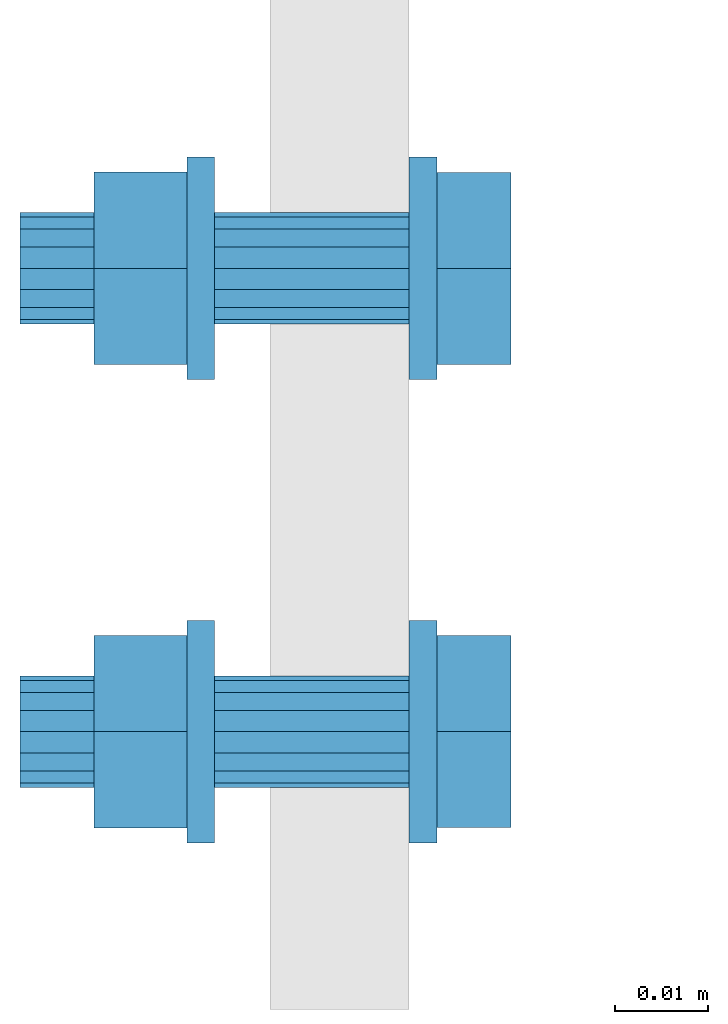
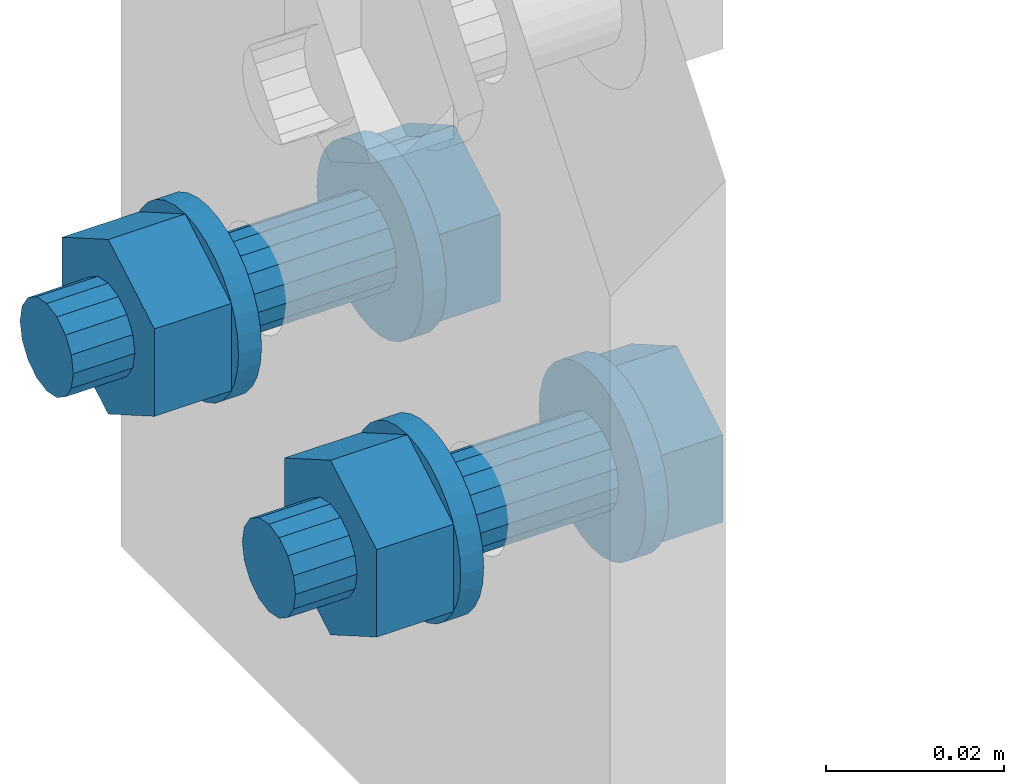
# One storey, part 3 of 13: 2 mechanical fasteners.
"""IFC4X3_ADD2 building model written with IfcOpenShell, lengths in millimetres."""

from ifc_helpers import new_model, entity, si_unit, converted_unit, derived_unit, direction, origin, place, context, project, spatial, faceted_brep, element, save


model = new_model("IFC4X3_ADD2")

# Units and contexts
model_context = context("Model", 3, precision=0.01, world=origin(), true_north=direction((6.123233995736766e-17, 1.0)))
plan_context = context("Plan", 3, precision=0.01, world=origin(), true_north=direction((6.123233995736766e-17, 1.0)))
ifc_project = project(units=[si_unit("LENGTHUNIT", "METRE", prefix="MILLI"), converted_unit("PLANEANGLEUNIT", "DEGREE", entity("IfcPlaneAngleMeasure", 0.017453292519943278), si_unit("PLANEANGLEUNIT", "RADIAN"), dimensions=[0, 0, 0, 0, 0, 0, 0]), si_unit("AREAUNIT", "SQUARE_METRE"), si_unit("VOLUMEUNIT", "CUBIC_METRE"), derived_unit("THERMALTRANSMITTANCEUNIT", [(si_unit("MASSUNIT", "GRAM", prefix="KILO"), 1), (si_unit("THERMODYNAMICTEMPERATUREUNIT", "KELVIN"), -1), (si_unit("TIMEUNIT", "SECOND"), -3)]), derived_unit("USERDEFINED", [(si_unit("MASSUNIT", "GRAM", prefix="KILO"), 1), (si_unit("THERMODYNAMICTEMPERATUREUNIT", "KELVIN"), -1), (si_unit("TIMEUNIT", "SECOND"), -2)]), derived_unit("THERMALRESISTANCEUNIT", [(si_unit("MASSUNIT", "GRAM", prefix="KILO"), -1), (si_unit("TIMEUNIT", "SECOND"), 3), (si_unit("THERMODYNAMICTEMPERATUREUNIT", "KELVIN"), 1)]), si_unit("MASSUNIT", "GRAM", prefix="KILO"), derived_unit("MOMENTOFINERTIAUNIT", [(si_unit("LENGTHUNIT", "METRE"), 4)]), derived_unit("LINEARFORCEUNIT", [(si_unit("MASSUNIT", "GRAM", prefix="KILO"), 1), (si_unit("TIMEUNIT", "SECOND"), -2)]), derived_unit("WARPINGCONSTANTUNIT", [(si_unit("LENGTHUNIT", "METRE"), 6)]), si_unit("PRESSUREUNIT", "PASCAL"), derived_unit("MASSDENSITYUNIT", [(si_unit("MASSUNIT", "GRAM", prefix="KILO"), 1), (si_unit("LENGTHUNIT", "METRE"), -3)]), derived_unit("MODULUSOFELASTICITYUNIT", [(si_unit("MASSUNIT", "GRAM", prefix="KILO"), 1), (si_unit("TIMEUNIT", "SECOND"), -2), (si_unit("LENGTHUNIT", "METRE"), -1)]), derived_unit("THERMALEXPANSIONCOEFFICIENTUNIT", [(si_unit("THERMODYNAMICTEMPERATUREUNIT", "KELVIN"), -1)]), derived_unit("VAPORPERMEABILITYUNIT", [(si_unit("LENGTHUNIT", "METRE"), -1), (si_unit("TIMEUNIT", "SECOND"), 1)]), derived_unit("USERDEFINED", [(si_unit("MASSUNIT", "GRAM", prefix="KILO"), 1), (si_unit("TIMEUNIT", "SECOND"), -3), (si_unit("LENGTHUNIT", "METRE"), 3), (si_unit("ELECTRICCURRENTUNIT", "AMPERE"), -2)]), derived_unit("SPECIFICHEATCAPACITYUNIT", [(si_unit("THERMODYNAMICTEMPERATUREUNIT", "KELVIN"), -1), (si_unit("TIMEUNIT", "SECOND"), -2), (si_unit("LENGTHUNIT", "METRE"), 2)]), derived_unit("THERMALCONDUCTANCEUNIT", [(si_unit("MASSUNIT", "GRAM", prefix="KILO"), 1), (si_unit("THERMODYNAMICTEMPERATUREUNIT", "KELVIN"), -1), (si_unit("TIMEUNIT", "SECOND"), -3), (si_unit("LENGTHUNIT", "METRE"), 1)])], contexts=[model_context, plan_context])

# Site, building, storey
site_placement = place(None, origin())
site = spatial("IfcSite", under=ifc_project, at=site_placement, Name="Default", CompositionType="ELEMENT")
building_placement = place(site_placement, origin())
building = spatial("IfcBuilding", under=site, at=building_placement, Name="Complex structure", CompositionType="ELEMENT")
storey_placement = place(building_placement, origin())
storey = spatial("IfcBuildingStorey", under=building, at=storey_placement, Name="Level 00", CompositionType="ELEMENT", Elevation=0.0)

# Mechanical fasteners
mechanical_fastener_1_placement = place(storey_placement, origin())
element("IfcMechanicalFastener", 1, at=mechanical_fastener_1_placement, inside=storey, ObjectType="Bolt#5", NominalDiameter=12.0, NominalLength=45.0, context=model_context, shape_type="Brep", body=[
    faceted_brep([(-13124.221550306, -1269.866703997, 2900.0), (-13127.221550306, -1269.866703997, 2900.0), (-13127.221550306, -1269.636127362, 2897.658916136), (-13124.221550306, -1269.636127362, 2897.658916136), (-13127.221550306, -1268.953258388, 2895.407798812), (-13124.221550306, -1268.953258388, 2895.407798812), (-13127.221550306, -1267.844339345, 2893.333157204), (-13124.221550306, -1267.844339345, 2893.333157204), (-13127.221550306, -1266.351985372, 2891.514718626), (-13124.221550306, -1266.351985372, 2891.514718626), (-13127.221550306, -1264.533546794, 2890.022364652), (-13124.221550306, -1264.533546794, 2890.022364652), (-13127.221550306, -1262.458905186, 2888.91344561), (-13124.221550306, -1262.458905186, 2888.91344561), (-13127.221550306, -1260.207787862, 2888.230576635), (-13124.221550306, -1260.207787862, 2888.230576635), (-13127.221550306, -1257.866703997, 2888.0), (-13124.221550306, -1257.866703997, 2888.0), (-13127.221550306, -1255.525620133, 2888.230576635), (-13124.221550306, -1255.525620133, 2888.230576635), (-13127.221550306, -1253.274502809, 2888.91344561), (-13124.221550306, -1253.274502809, 2888.91344561), (-13127.221550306, -1251.199861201, 2890.022364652), (-13124.221550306, -1251.199861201, 2890.022364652), (-13127.221550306, -1249.381422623, 2891.514718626), (-13124.221550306, -1249.381422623, 2891.514718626), (-13127.221550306, -1247.88906865, 2893.333157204), (-13124.221550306, -1247.88906865, 2893.333157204), (-13127.221550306, -1246.780149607, 2895.407798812), (-13124.221550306, -1246.780149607, 2895.407798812), (-13127.221550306, -1246.097280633, 2897.658916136), (-13124.221550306, -1246.097280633, 2897.658916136), (-13127.221550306, -1245.866703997, 2900.0), (-13124.221550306, -1245.866703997, 2900.0), (-13127.221550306, -1246.097280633, 2902.341083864), (-13124.221550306, -1246.097280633, 2902.341083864), (-13127.221550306, -1246.780149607, 2904.592201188), (-13124.221550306, -1246.780149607, 2904.592201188), (-13127.221550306, -1247.88906865, 2906.666842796), (-13124.221550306, -1247.88906865, 2906.666842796), (-13127.221550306, -1249.381422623, 2908.485281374), (-13124.221550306, -1249.381422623, 2908.485281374), (-13127.221550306, -1251.199861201, 2909.977635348), (-13124.221550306, -1251.199861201, 2909.977635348), (-13127.221550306, -1253.274502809, 2911.08655439), (-13124.221550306, -1253.274502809, 2911.08655439), (-13127.221550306, -1255.525620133, 2911.769423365), (-13124.221550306, -1255.525620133, 2911.769423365), (-13127.221550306, -1257.866703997, 2912.0), (-13124.221550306, -1257.866703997, 2912.0), (-13127.221550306, -1260.207787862, 2911.769423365), (-13124.221550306, -1260.207787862, 2911.769423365), (-13127.221550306, -1262.458905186, 2911.08655439), (-13124.221550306, -1262.458905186, 2911.08655439), (-13127.221550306, -1264.533546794, 2909.977635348), (-13124.221550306, -1264.533546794, 2909.977635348), (-13127.221550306, -1266.351985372, 2908.485281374), (-13124.221550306, -1266.351985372, 2908.485281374), (-13127.221550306, -1267.844339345, 2906.666842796), (-13124.221550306, -1267.844339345, 2906.666842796), (-13127.221550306, -1268.953258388, 2904.592201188), (-13124.221550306, -1268.953258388, 2904.592201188), (-13127.221550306, -1269.636127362, 2902.341083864), (-13124.221550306, -1269.636127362, 2902.341083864)], [[[0, 1, 2, 3]], [[3, 2, 4, 5]], [[5, 4, 6, 7]], [[7, 6, 8, 9]], [[9, 8, 10, 11]], [[11, 10, 12, 13]], [[13, 12, 14, 15]], [[15, 14, 16, 17]], [[17, 16, 18, 19]], [[19, 18, 20, 21]], [[21, 20, 22, 23]], [[23, 22, 24, 25]], [[25, 24, 26, 27]], [[27, 26, 28, 29]], [[29, 28, 30, 31]], [[31, 30, 32, 33]], [[33, 32, 34, 35]], [[35, 34, 36, 37]], [[37, 36, 38, 39]], [[39, 38, 40, 41]], [[41, 40, 42, 43]], [[43, 42, 44, 45]], [[45, 44, 46, 47]], [[47, 46, 48, 49]], [[49, 48, 50, 51]], [[51, 50, 52, 53]], [[53, 52, 54, 55]], [[55, 54, 56, 57]], [[57, 56, 58, 59]], [[59, 58, 60, 61]], [[61, 60, 62, 63]], [[63, 62, 1, 0]], [[0, 3, 5, 7, 9, 11, 13, 15, 17, 19, 21, 23, 25, 27, 29, 31, 33, 35, 37, 39, 41, 43, 45, 47, 49, 51, 53, 55, 57, 59, 61, 63]], [[1, 62, 60, 58, 56, 54, 52, 50, 48, 46, 44, 42, 40, 38, 36, 34, 32, 30, 28, 26, 24, 22, 20, 18, 16, 14, 12, 10, 8, 6, 4, 2]]]),
    faceted_brep([(-13124.221550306, -1247.513370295, 2894.0225), (-13116.221550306, -1247.513370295, 2894.0225), (-13116.221550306, -1257.866703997, 2888.045), (-13124.221550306, -1257.866703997, 2888.045), (-13116.221550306, -1268.2200377, 2894.0225), (-13124.221550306, -1268.2200377, 2894.0225), (-13116.221550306, -1268.2200377, 2905.9775), (-13124.221550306, -1268.2200377, 2905.9775), (-13116.221550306, -1257.866703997, 2911.955), (-13124.221550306, -1257.866703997, 2911.955), (-13116.221550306, -1247.513370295, 2905.9775), (-13124.221550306, -1247.513370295, 2905.9775)], [[[0, 1, 2, 3]], [[3, 2, 4, 5]], [[5, 4, 6, 7]], [[7, 6, 8, 9]], [[9, 8, 10, 11]], [[11, 10, 1, 0]], [[4, 2, 1, 10, 8, 6]], [[0, 3, 5, 7, 9, 11]]]),
    faceted_brep([(-13127.221550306, -1263.866703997, 2900.0), (-13148.221550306, -1263.866703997, 2900.0), (-13148.221550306, -1263.409981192, 2897.703899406), (-13127.221550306, -1263.409981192, 2897.703899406), (-13148.221550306, -1262.109344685, 2895.757359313), (-13127.221550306, -1262.109344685, 2895.757359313), (-13148.221550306, -1260.162804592, 2894.456722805), (-13127.221550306, -1260.162804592, 2894.456722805), (-13148.221550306, -1257.866703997, 2894.0), (-13127.221550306, -1257.866703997, 2894.0), (-13148.221550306, -1255.570603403, 2894.456722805), (-13127.221550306, -1255.570603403, 2894.456722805), (-13148.221550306, -1253.62406331, 2895.757359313), (-13127.221550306, -1253.62406331, 2895.757359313), (-13148.221550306, -1252.323426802, 2897.703899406), (-13127.221550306, -1252.323426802, 2897.703899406), (-13148.221550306, -1251.866703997, 2900.0), (-13127.221550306, -1251.866703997, 2900.0), (-13148.221550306, -1252.323426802, 2902.296100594), (-13127.221550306, -1252.323426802, 2902.296100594), (-13148.221550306, -1253.62406331, 2904.242640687), (-13127.221550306, -1253.62406331, 2904.242640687), (-13148.221550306, -1255.570603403, 2905.543277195), (-13127.221550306, -1255.570603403, 2905.543277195), (-13148.221550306, -1257.866703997, 2906.0), (-13127.221550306, -1257.866703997, 2906.0), (-13148.221550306, -1260.162804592, 2905.543277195), (-13127.221550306, -1260.162804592, 2905.543277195), (-13148.221550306, -1262.109344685, 2904.242640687), (-13127.221550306, -1262.109344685, 2904.242640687), (-13148.221550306, -1263.409981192, 2902.296100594), (-13127.221550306, -1263.409981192, 2902.296100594)], [[[0, 1, 2, 3]], [[3, 2, 4, 5]], [[5, 4, 6, 7]], [[7, 6, 8, 9]], [[9, 8, 10, 11]], [[11, 10, 12, 13]], [[13, 12, 14, 15]], [[15, 14, 16, 17]], [[17, 16, 18, 19]], [[19, 18, 20, 21]], [[21, 20, 22, 23]], [[23, 22, 24, 25]], [[25, 24, 26, 27]], [[27, 26, 28, 29]], [[29, 28, 30, 31]], [[31, 30, 1, 0]], [[0, 3, 5, 7, 9, 11, 13, 15, 17, 19, 21, 23, 25, 27, 29, 31]], [[1, 30, 28, 26, 24, 22, 20, 18, 16, 14, 12, 10, 8, 6, 4, 2]]]),
    faceted_brep([(-13148.221550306, -1269.866703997, 2900.0), (-13151.221550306, -1269.866703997, 2900.0), (-13151.221550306, -1269.636127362, 2897.658916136), (-13148.221550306, -1269.636127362, 2897.658916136), (-13151.221550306, -1268.953258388, 2895.407798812), (-13148.221550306, -1268.953258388, 2895.407798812), (-13151.221550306, -1267.844339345, 2893.333157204), (-13148.221550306, -1267.844339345, 2893.333157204), (-13151.221550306, -1266.351985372, 2891.514718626), (-13148.221550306, -1266.351985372, 2891.514718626), (-13151.221550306, -1264.533546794, 2890.022364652), (-13148.221550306, -1264.533546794, 2890.022364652), (-13151.221550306, -1262.458905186, 2888.91344561), (-13148.221550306, -1262.458905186, 2888.91344561), (-13151.221550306, -1260.207787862, 2888.230576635), (-13148.221550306, -1260.207787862, 2888.230576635), (-13151.221550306, -1257.866703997, 2888.0), (-13148.221550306, -1257.866703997, 2888.0), (-13151.221550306, -1255.525620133, 2888.230576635), (-13148.221550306, -1255.525620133, 2888.230576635), (-13151.221550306, -1253.274502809, 2888.91344561), (-13148.221550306, -1253.274502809, 2888.91344561), (-13151.221550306, -1251.199861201, 2890.022364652), (-13148.221550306, -1251.199861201, 2890.022364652), (-13151.221550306, -1249.381422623, 2891.514718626), (-13148.221550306, -1249.381422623, 2891.514718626), (-13151.221550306, -1247.88906865, 2893.333157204), (-13148.221550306, -1247.88906865, 2893.333157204), (-13151.221550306, -1246.780149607, 2895.407798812), (-13148.221550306, -1246.780149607, 2895.407798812), (-13151.221550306, -1246.097280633, 2897.658916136), (-13148.221550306, -1246.097280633, 2897.658916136), (-13151.221550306, -1245.866703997, 2900.0), (-13148.221550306, -1245.866703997, 2900.0), (-13151.221550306, -1246.097280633, 2902.341083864), (-13148.221550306, -1246.097280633, 2902.341083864), (-13151.221550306, -1246.780149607, 2904.592201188), (-13148.221550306, -1246.780149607, 2904.592201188), (-13151.221550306, -1247.88906865, 2906.666842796), (-13148.221550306, -1247.88906865, 2906.666842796), (-13151.221550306, -1249.381422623, 2908.485281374), (-13148.221550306, -1249.381422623, 2908.485281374), (-13151.221550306, -1251.199861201, 2909.977635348), (-13148.221550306, -1251.199861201, 2909.977635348), (-13151.221550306, -1253.274502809, 2911.08655439), (-13148.221550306, -1253.274502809, 2911.08655439), (-13151.221550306, -1255.525620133, 2911.769423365), (-13148.221550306, -1255.525620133, 2911.769423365), (-13151.221550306, -1257.866703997, 2912.0), (-13148.221550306, -1257.866703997, 2912.0), (-13151.221550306, -1260.207787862, 2911.769423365), (-13148.221550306, -1260.207787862, 2911.769423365), (-13151.221550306, -1262.458905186, 2911.08655439), (-13148.221550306, -1262.458905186, 2911.08655439), (-13151.221550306, -1264.533546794, 2909.977635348), (-13148.221550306, -1264.533546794, 2909.977635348), (-13151.221550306, -1266.351985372, 2908.485281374), (-13148.221550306, -1266.351985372, 2908.485281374), (-13151.221550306, -1267.844339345, 2906.666842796), (-13148.221550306, -1267.844339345, 2906.666842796), (-13151.221550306, -1268.953258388, 2904.592201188), (-13148.221550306, -1268.953258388, 2904.592201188), (-13151.221550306, -1269.636127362, 2902.341083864), (-13148.221550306, -1269.636127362, 2902.341083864)], [[[0, 1, 2, 3]], [[3, 2, 4, 5]], [[5, 4, 6, 7]], [[7, 6, 8, 9]], [[9, 8, 10, 11]], [[11, 10, 12, 13]], [[13, 12, 14, 15]], [[15, 14, 16, 17]], [[17, 16, 18, 19]], [[19, 18, 20, 21]], [[21, 20, 22, 23]], [[23, 22, 24, 25]], [[25, 24, 26, 27]], [[27, 26, 28, 29]], [[29, 28, 30, 31]], [[31, 30, 32, 33]], [[33, 32, 34, 35]], [[35, 34, 36, 37]], [[37, 36, 38, 39]], [[39, 38, 40, 41]], [[41, 40, 42, 43]], [[43, 42, 44, 45]], [[45, 44, 46, 47]], [[47, 46, 48, 49]], [[49, 48, 50, 51]], [[51, 50, 52, 53]], [[53, 52, 54, 55]], [[55, 54, 56, 57]], [[57, 56, 58, 59]], [[59, 58, 60, 61]], [[61, 60, 62, 63]], [[63, 62, 1, 0]], [[0, 3, 5, 7, 9, 11, 13, 15, 17, 19, 21, 23, 25, 27, 29, 31, 33, 35, 37, 39, 41, 43, 45, 47, 49, 51, 53, 55, 57, 59, 61, 63]], [[1, 62, 60, 58, 56, 54, 52, 50, 48, 46, 44, 42, 40, 38, 36, 34, 32, 30, 28, 26, 24, 22, 20, 18, 16, 14, 12, 10, 8, 6, 4, 2]]]),
    faceted_brep([(-13161.221550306, -1247.474399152, 2894.0), (-13151.221550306, -1247.474399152, 2894.0), (-13151.221550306, -1257.866703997, 2888.0), (-13161.221550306, -1257.866703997, 2888.0), (-13151.221550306, -1268.259008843, 2894.0), (-13161.221550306, -1268.259008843, 2894.0), (-13151.221550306, -1268.259008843, 2906.0), (-13161.221550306, -1268.259008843, 2906.0), (-13151.221550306, -1257.866703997, 2912.0), (-13161.221550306, -1257.866703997, 2912.0), (-13151.221550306, -1247.474399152, 2906.0), (-13161.221550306, -1247.474399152, 2906.0)], [[[0, 1, 2, 3]], [[3, 2, 4, 5]], [[5, 4, 6, 7]], [[7, 6, 8, 9]], [[9, 8, 10, 11]], [[11, 10, 1, 0]], [[4, 2, 1, 10, 8, 6]], [[0, 3, 5, 7, 9, 11]]]),
    faceted_brep([(-13161.221550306, -1263.866703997, 2900.0), (-13169.221550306, -1263.866703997, 2900.0), (-13169.221550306, -1263.409981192, 2897.703899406), (-13161.221550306, -1263.409981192, 2897.703899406), (-13169.221550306, -1262.109344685, 2895.757359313), (-13161.221550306, -1262.109344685, 2895.757359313), (-13169.221550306, -1260.162804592, 2894.456722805), (-13161.221550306, -1260.162804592, 2894.456722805), (-13169.221550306, -1257.866703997, 2894.0), (-13161.221550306, -1257.866703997, 2894.0), (-13169.221550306, -1255.570603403, 2894.456722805), (-13161.221550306, -1255.570603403, 2894.456722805), (-13169.221550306, -1253.62406331, 2895.757359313), (-13161.221550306, -1253.62406331, 2895.757359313), (-13169.221550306, -1252.323426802, 2897.703899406), (-13161.221550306, -1252.323426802, 2897.703899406), (-13169.221550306, -1251.866703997, 2900.0), (-13161.221550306, -1251.866703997, 2900.0), (-13169.221550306, -1252.323426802, 2902.296100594), (-13161.221550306, -1252.323426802, 2902.296100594), (-13169.221550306, -1253.62406331, 2904.242640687), (-13161.221550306, -1253.62406331, 2904.242640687), (-13169.221550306, -1255.570603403, 2905.543277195), (-13161.221550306, -1255.570603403, 2905.543277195), (-13169.221550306, -1257.866703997, 2906.0), (-13161.221550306, -1257.866703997, 2906.0), (-13169.221550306, -1260.162804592, 2905.543277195), (-13161.221550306, -1260.162804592, 2905.543277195), (-13169.221550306, -1262.109344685, 2904.242640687), (-13161.221550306, -1262.109344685, 2904.242640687), (-13169.221550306, -1263.409981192, 2902.296100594), (-13161.221550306, -1263.409981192, 2902.296100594)], [[[0, 1, 2, 3]], [[3, 2, 4, 5]], [[5, 4, 6, 7]], [[7, 6, 8, 9]], [[9, 8, 10, 11]], [[11, 10, 12, 13]], [[13, 12, 14, 15]], [[15, 14, 16, 17]], [[17, 16, 18, 19]], [[19, 18, 20, 21]], [[21, 20, 22, 23]], [[23, 22, 24, 25]], [[25, 24, 26, 27]], [[27, 26, 28, 29]], [[29, 28, 30, 31]], [[31, 30, 1, 0]], [[0, 3, 5, 7, 9, 11, 13, 15, 17, 19, 21, 23, 25, 27, 29, 31]], [[1, 30, 28, 26, 24, 22, 20, 18, 16, 14, 12, 10, 8, 6, 4, 2]]]),
])
mechanical_fastener_2_placement = place(storey_placement, origin())
element("IfcMechanicalFastener", 2, at=mechanical_fastener_2_placement, inside=storey, ObjectType="Bolt#6", NominalDiameter=12.0, NominalLength=45.0, context=model_context, shape_type="Brep", body=[
    faceted_brep([(-13124.221550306, -1295.866703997, 2900.0), (-13127.221550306, -1295.866703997, 2900.0), (-13127.221550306, -1296.097280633, 2902.341083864), (-13124.221550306, -1296.097280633, 2902.341083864), (-13127.221550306, -1296.780149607, 2904.592201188), (-13124.221550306, -1296.780149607, 2904.592201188), (-13127.221550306, -1297.88906865, 2906.666842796), (-13124.221550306, -1297.88906865, 2906.666842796), (-13127.221550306, -1299.381422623, 2908.485281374), (-13124.221550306, -1299.381422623, 2908.485281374), (-13127.221550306, -1301.199861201, 2909.977635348), (-13124.221550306, -1301.199861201, 2909.977635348), (-13127.221550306, -1303.274502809, 2911.08655439), (-13124.221550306, -1303.274502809, 2911.08655439), (-13127.221550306, -1305.525620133, 2911.769423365), (-13124.221550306, -1305.525620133, 2911.769423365), (-13127.221550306, -1307.866703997, 2912.0), (-13124.221550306, -1307.866703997, 2912.0), (-13127.221550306, -1310.207787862, 2911.769423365), (-13124.221550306, -1310.207787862, 2911.769423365), (-13127.221550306, -1312.458905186, 2911.08655439), (-13124.221550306, -1312.458905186, 2911.08655439), (-13127.221550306, -1314.533546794, 2909.977635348), (-13124.221550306, -1314.533546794, 2909.977635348), (-13127.221550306, -1316.351985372, 2908.485281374), (-13124.221550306, -1316.351985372, 2908.485281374), (-13127.221550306, -1317.844339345, 2906.666842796), (-13124.221550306, -1317.844339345, 2906.666842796), (-13127.221550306, -1318.953258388, 2904.592201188), (-13124.221550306, -1318.953258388, 2904.592201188), (-13127.221550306, -1319.636127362, 2902.341083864), (-13124.221550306, -1319.636127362, 2902.341083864), (-13127.221550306, -1319.866703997, 2900.0), (-13124.221550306, -1319.866703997, 2900.0), (-13127.221550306, -1319.636127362, 2897.658916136), (-13124.221550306, -1319.636127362, 2897.658916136), (-13127.221550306, -1318.953258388, 2895.407798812), (-13124.221550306, -1318.953258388, 2895.407798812), (-13127.221550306, -1317.844339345, 2893.333157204), (-13124.221550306, -1317.844339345, 2893.333157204), (-13127.221550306, -1316.351985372, 2891.514718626), (-13124.221550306, -1316.351985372, 2891.514718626), (-13127.221550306, -1314.533546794, 2890.022364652), (-13124.221550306, -1314.533546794, 2890.022364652), (-13127.221550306, -1312.458905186, 2888.91344561), (-13124.221550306, -1312.458905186, 2888.91344561), (-13127.221550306, -1310.207787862, 2888.230576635), (-13124.221550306, -1310.207787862, 2888.230576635), (-13127.221550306, -1307.866703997, 2888.0), (-13124.221550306, -1307.866703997, 2888.0), (-13127.221550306, -1305.525620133, 2888.230576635), (-13124.221550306, -1305.525620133, 2888.230576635), (-13127.221550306, -1303.274502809, 2888.91344561), (-13124.221550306, -1303.274502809, 2888.91344561), (-13127.221550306, -1301.199861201, 2890.022364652), (-13124.221550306, -1301.199861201, 2890.022364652), (-13127.221550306, -1299.381422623, 2891.514718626), (-13124.221550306, -1299.381422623, 2891.514718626), (-13127.221550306, -1297.88906865, 2893.333157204), (-13124.221550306, -1297.88906865, 2893.333157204), (-13127.221550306, -1296.780149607, 2895.407798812), (-13124.221550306, -1296.780149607, 2895.407798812), (-13127.221550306, -1296.097280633, 2897.658916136), (-13124.221550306, -1296.097280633, 2897.658916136)], [[[0, 1, 2, 3]], [[3, 2, 4, 5]], [[5, 4, 6, 7]], [[7, 6, 8, 9]], [[9, 8, 10, 11]], [[11, 10, 12, 13]], [[13, 12, 14, 15]], [[15, 14, 16, 17]], [[17, 16, 18, 19]], [[19, 18, 20, 21]], [[21, 20, 22, 23]], [[23, 22, 24, 25]], [[25, 24, 26, 27]], [[27, 26, 28, 29]], [[29, 28, 30, 31]], [[31, 30, 32, 33]], [[33, 32, 34, 35]], [[35, 34, 36, 37]], [[37, 36, 38, 39]], [[39, 38, 40, 41]], [[41, 40, 42, 43]], [[43, 42, 44, 45]], [[45, 44, 46, 47]], [[47, 46, 48, 49]], [[49, 48, 50, 51]], [[51, 50, 52, 53]], [[53, 52, 54, 55]], [[55, 54, 56, 57]], [[57, 56, 58, 59]], [[59, 58, 60, 61]], [[61, 60, 62, 63]], [[63, 62, 1, 0]], [[0, 3, 5, 7, 9, 11, 13, 15, 17, 19, 21, 23, 25, 27, 29, 31, 33, 35, 37, 39, 41, 43, 45, 47, 49, 51, 53, 55, 57, 59, 61, 63]], [[1, 62, 60, 58, 56, 54, 52, 50, 48, 46, 44, 42, 40, 38, 36, 34, 32, 30, 28, 26, 24, 22, 20, 18, 16, 14, 12, 10, 8, 6, 4, 2]]]),
    faceted_brep([(-13124.221550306, -1318.2200377, 2905.9775), (-13116.221550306, -1318.2200377, 2905.9775), (-13116.221550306, -1307.866703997, 2911.955), (-13124.221550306, -1307.866703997, 2911.955), (-13116.221550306, -1297.513370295, 2905.9775), (-13124.221550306, -1297.513370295, 2905.9775), (-13116.221550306, -1297.513370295, 2894.0225), (-13124.221550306, -1297.513370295, 2894.0225), (-13116.221550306, -1307.866703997, 2888.045), (-13124.221550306, -1307.866703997, 2888.045), (-13116.221550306, -1318.2200377, 2894.0225), (-13124.221550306, -1318.2200377, 2894.0225)], [[[0, 1, 2, 3]], [[3, 2, 4, 5]], [[5, 4, 6, 7]], [[7, 6, 8, 9]], [[9, 8, 10, 11]], [[11, 10, 1, 0]], [[4, 2, 1, 10, 8, 6]], [[0, 3, 5, 7, 9, 11]]]),
    faceted_brep([(-13127.221550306, -1301.866703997, 2900.0), (-13148.221550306, -1301.866703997, 2900.0), (-13148.221550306, -1302.323426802, 2902.296100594), (-13127.221550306, -1302.323426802, 2902.296100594), (-13148.221550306, -1303.62406331, 2904.242640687), (-13127.221550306, -1303.62406331, 2904.242640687), (-13148.221550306, -1305.570603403, 2905.543277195), (-13127.221550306, -1305.570603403, 2905.543277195), (-13148.221550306, -1307.866703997, 2906.0), (-13127.221550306, -1307.866703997, 2906.0), (-13148.221550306, -1310.162804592, 2905.543277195), (-13127.221550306, -1310.162804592, 2905.543277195), (-13148.221550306, -1312.109344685, 2904.242640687), (-13127.221550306, -1312.109344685, 2904.242640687), (-13148.221550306, -1313.409981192, 2902.296100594), (-13127.221550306, -1313.409981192, 2902.296100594), (-13148.221550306, -1313.866703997, 2900.0), (-13127.221550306, -1313.866703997, 2900.0), (-13148.221550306, -1313.409981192, 2897.703899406), (-13127.221550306, -1313.409981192, 2897.703899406), (-13148.221550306, -1312.109344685, 2895.757359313), (-13127.221550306, -1312.109344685, 2895.757359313), (-13148.221550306, -1310.162804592, 2894.456722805), (-13127.221550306, -1310.162804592, 2894.456722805), (-13148.221550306, -1307.866703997, 2894.0), (-13127.221550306, -1307.866703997, 2894.0), (-13148.221550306, -1305.570603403, 2894.456722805), (-13127.221550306, -1305.570603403, 2894.456722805), (-13148.221550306, -1303.62406331, 2895.757359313), (-13127.221550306, -1303.62406331, 2895.757359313), (-13148.221550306, -1302.323426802, 2897.703899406), (-13127.221550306, -1302.323426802, 2897.703899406)], [[[0, 1, 2, 3]], [[3, 2, 4, 5]], [[5, 4, 6, 7]], [[7, 6, 8, 9]], [[9, 8, 10, 11]], [[11, 10, 12, 13]], [[13, 12, 14, 15]], [[15, 14, 16, 17]], [[17, 16, 18, 19]], [[19, 18, 20, 21]], [[21, 20, 22, 23]], [[23, 22, 24, 25]], [[25, 24, 26, 27]], [[27, 26, 28, 29]], [[29, 28, 30, 31]], [[31, 30, 1, 0]], [[0, 3, 5, 7, 9, 11, 13, 15, 17, 19, 21, 23, 25, 27, 29, 31]], [[1, 30, 28, 26, 24, 22, 20, 18, 16, 14, 12, 10, 8, 6, 4, 2]]]),
    faceted_brep([(-13148.221550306, -1295.866703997, 2900.0), (-13151.221550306, -1295.866703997, 2900.0), (-13151.221550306, -1296.097280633, 2902.341083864), (-13148.221550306, -1296.097280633, 2902.341083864), (-13151.221550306, -1296.780149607, 2904.592201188), (-13148.221550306, -1296.780149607, 2904.592201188), (-13151.221550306, -1297.88906865, 2906.666842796), (-13148.221550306, -1297.88906865, 2906.666842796), (-13151.221550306, -1299.381422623, 2908.485281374), (-13148.221550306, -1299.381422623, 2908.485281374), (-13151.221550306, -1301.199861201, 2909.977635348), (-13148.221550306, -1301.199861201, 2909.977635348), (-13151.221550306, -1303.274502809, 2911.08655439), (-13148.221550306, -1303.274502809, 2911.08655439), (-13151.221550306, -1305.525620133, 2911.769423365), (-13148.221550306, -1305.525620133, 2911.769423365), (-13151.221550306, -1307.866703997, 2912.0), (-13148.221550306, -1307.866703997, 2912.0), (-13151.221550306, -1310.207787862, 2911.769423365), (-13148.221550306, -1310.207787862, 2911.769423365), (-13151.221550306, -1312.458905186, 2911.08655439), (-13148.221550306, -1312.458905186, 2911.08655439), (-13151.221550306, -1314.533546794, 2909.977635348), (-13148.221550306, -1314.533546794, 2909.977635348), (-13151.221550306, -1316.351985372, 2908.485281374), (-13148.221550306, -1316.351985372, 2908.485281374), (-13151.221550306, -1317.844339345, 2906.666842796), (-13148.221550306, -1317.844339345, 2906.666842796), (-13151.221550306, -1318.953258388, 2904.592201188), (-13148.221550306, -1318.953258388, 2904.592201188), (-13151.221550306, -1319.636127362, 2902.341083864), (-13148.221550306, -1319.636127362, 2902.341083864), (-13151.221550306, -1319.866703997, 2900.0), (-13148.221550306, -1319.866703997, 2900.0), (-13151.221550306, -1319.636127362, 2897.658916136), (-13148.221550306, -1319.636127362, 2897.658916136), (-13151.221550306, -1318.953258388, 2895.407798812), (-13148.221550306, -1318.953258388, 2895.407798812), (-13151.221550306, -1317.844339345, 2893.333157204), (-13148.221550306, -1317.844339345, 2893.333157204), (-13151.221550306, -1316.351985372, 2891.514718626), (-13148.221550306, -1316.351985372, 2891.514718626), (-13151.221550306, -1314.533546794, 2890.022364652), (-13148.221550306, -1314.533546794, 2890.022364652), (-13151.221550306, -1312.458905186, 2888.91344561), (-13148.221550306, -1312.458905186, 2888.91344561), (-13151.221550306, -1310.207787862, 2888.230576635), (-13148.221550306, -1310.207787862, 2888.230576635), (-13151.221550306, -1307.866703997, 2888.0), (-13148.221550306, -1307.866703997, 2888.0), (-13151.221550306, -1305.525620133, 2888.230576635), (-13148.221550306, -1305.525620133, 2888.230576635), (-13151.221550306, -1303.274502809, 2888.91344561), (-13148.221550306, -1303.274502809, 2888.91344561), (-13151.221550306, -1301.199861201, 2890.022364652), (-13148.221550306, -1301.199861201, 2890.022364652), (-13151.221550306, -1299.381422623, 2891.514718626), (-13148.221550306, -1299.381422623, 2891.514718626), (-13151.221550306, -1297.88906865, 2893.333157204), (-13148.221550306, -1297.88906865, 2893.333157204), (-13151.221550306, -1296.780149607, 2895.407798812), (-13148.221550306, -1296.780149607, 2895.407798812), (-13151.221550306, -1296.097280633, 2897.658916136), (-13148.221550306, -1296.097280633, 2897.658916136)], [[[0, 1, 2, 3]], [[3, 2, 4, 5]], [[5, 4, 6, 7]], [[7, 6, 8, 9]], [[9, 8, 10, 11]], [[11, 10, 12, 13]], [[13, 12, 14, 15]], [[15, 14, 16, 17]], [[17, 16, 18, 19]], [[19, 18, 20, 21]], [[21, 20, 22, 23]], [[23, 22, 24, 25]], [[25, 24, 26, 27]], [[27, 26, 28, 29]], [[29, 28, 30, 31]], [[31, 30, 32, 33]], [[33, 32, 34, 35]], [[35, 34, 36, 37]], [[37, 36, 38, 39]], [[39, 38, 40, 41]], [[41, 40, 42, 43]], [[43, 42, 44, 45]], [[45, 44, 46, 47]], [[47, 46, 48, 49]], [[49, 48, 50, 51]], [[51, 50, 52, 53]], [[53, 52, 54, 55]], [[55, 54, 56, 57]], [[57, 56, 58, 59]], [[59, 58, 60, 61]], [[61, 60, 62, 63]], [[63, 62, 1, 0]], [[0, 3, 5, 7, 9, 11, 13, 15, 17, 19, 21, 23, 25, 27, 29, 31, 33, 35, 37, 39, 41, 43, 45, 47, 49, 51, 53, 55, 57, 59, 61, 63]], [[1, 62, 60, 58, 56, 54, 52, 50, 48, 46, 44, 42, 40, 38, 36, 34, 32, 30, 28, 26, 24, 22, 20, 18, 16, 14, 12, 10, 8, 6, 4, 2]]]),
    faceted_brep([(-13161.221550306, -1318.259008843, 2906.0), (-13151.221550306, -1318.259008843, 2906.0), (-13151.221550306, -1307.866703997, 2912.0), (-13161.221550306, -1307.866703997, 2912.0), (-13151.221550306, -1297.474399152, 2906.0), (-13161.221550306, -1297.474399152, 2906.0), (-13151.221550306, -1297.474399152, 2894.0), (-13161.221550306, -1297.474399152, 2894.0), (-13151.221550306, -1307.866703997, 2888.0), (-13161.221550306, -1307.866703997, 2888.0), (-13151.221550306, -1318.259008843, 2894.0), (-13161.221550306, -1318.259008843, 2894.0)], [[[0, 1, 2, 3]], [[3, 2, 4, 5]], [[5, 4, 6, 7]], [[7, 6, 8, 9]], [[9, 8, 10, 11]], [[11, 10, 1, 0]], [[4, 2, 1, 10, 8, 6]], [[0, 3, 5, 7, 9, 11]]]),
    faceted_brep([(-13161.221550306, -1301.866703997, 2900.0), (-13169.221550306, -1301.866703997, 2900.0), (-13169.221550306, -1302.323426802, 2902.296100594), (-13161.221550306, -1302.323426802, 2902.296100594), (-13169.221550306, -1303.62406331, 2904.242640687), (-13161.221550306, -1303.62406331, 2904.242640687), (-13169.221550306, -1305.570603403, 2905.543277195), (-13161.221550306, -1305.570603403, 2905.543277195), (-13169.221550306, -1307.866703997, 2906.0), (-13161.221550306, -1307.866703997, 2906.0), (-13169.221550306, -1310.162804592, 2905.543277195), (-13161.221550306, -1310.162804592, 2905.543277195), (-13169.221550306, -1312.109344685, 2904.242640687), (-13161.221550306, -1312.109344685, 2904.242640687), (-13169.221550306, -1313.409981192, 2902.296100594), (-13161.221550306, -1313.409981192, 2902.296100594), (-13169.221550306, -1313.866703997, 2900.0), (-13161.221550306, -1313.866703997, 2900.0), (-13169.221550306, -1313.409981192, 2897.703899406), (-13161.221550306, -1313.409981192, 2897.703899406), (-13169.221550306, -1312.109344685, 2895.757359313), (-13161.221550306, -1312.109344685, 2895.757359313), (-13169.221550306, -1310.162804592, 2894.456722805), (-13161.221550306, -1310.162804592, 2894.456722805), (-13169.221550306, -1307.866703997, 2894.0), (-13161.221550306, -1307.866703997, 2894.0), (-13169.221550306, -1305.570603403, 2894.456722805), (-13161.221550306, -1305.570603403, 2894.456722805), (-13169.221550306, -1303.62406331, 2895.757359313), (-13161.221550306, -1303.62406331, 2895.757359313), (-13169.221550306, -1302.323426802, 2897.703899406), (-13161.221550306, -1302.323426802, 2897.703899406)], [[[0, 1, 2, 3]], [[3, 2, 4, 5]], [[5, 4, 6, 7]], [[7, 6, 8, 9]], [[9, 8, 10, 11]], [[11, 10, 12, 13]], [[13, 12, 14, 15]], [[15, 14, 16, 17]], [[17, 16, 18, 19]], [[19, 18, 20, 21]], [[21, 20, 22, 23]], [[23, 22, 24, 25]], [[25, 24, 26, 27]], [[27, 26, 28, 29]], [[29, 28, 30, 31]], [[31, 30, 1, 0]], [[0, 3, 5, 7, 9, 11, 13, 15, 17, 19, 21, 23, 25, 27, 29, 31]], [[1, 30, 28, 26, 24, 22, 20, 18, 16, 14, 12, 10, 8, 6, 4, 2]]]),
])

save(model, "model.ifc")
